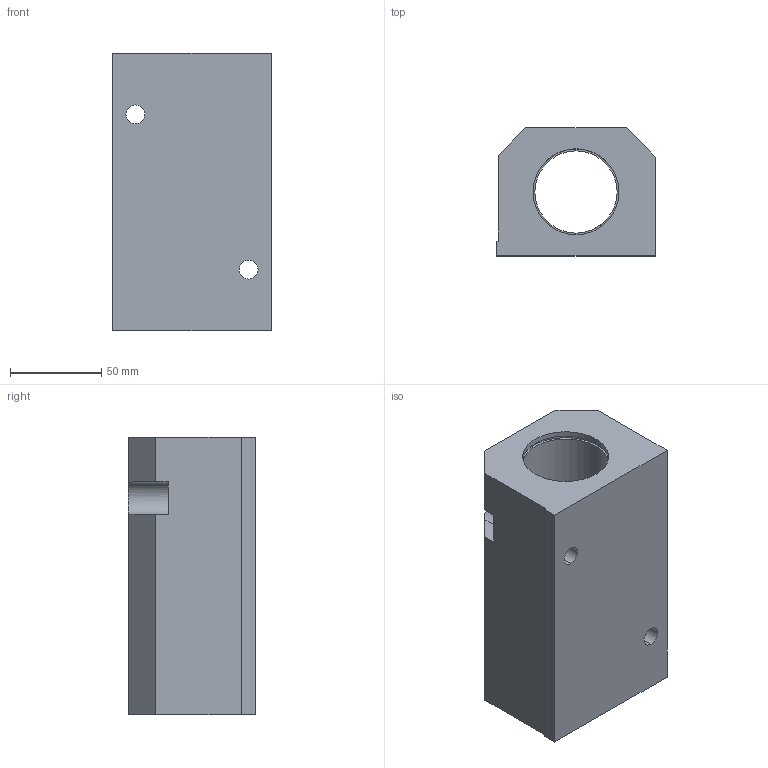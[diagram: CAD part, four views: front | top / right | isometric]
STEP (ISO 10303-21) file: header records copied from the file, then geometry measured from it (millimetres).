
FILE_DESCRIPTION (( 'STEP AP214' ), '1' );
FILE_NAME ('KTG85-30.step', '2020-03-04T13:25:54', ( '' ), ( '' ), 'SwSTEP 2.0', 'SolidWorks 2019', '' );
FILE_SCHEMA (( 'AUTOMOTIVE_DESIGN' ));
Length unit declared in the file: millimetre
Products named in the file (1): KTG85-30
Bounding box: 87 x 70 x 152 mm (x, y, z)
Volume: 596633.5 mm3; surface area: 81179.1 mm2
Topology: 1 solids, 1 shells, 50 faces, 122 edges, 80 vertices
Faces by surface type: cylinder 24, plane 24, cone 2
Entity records: 1658 total; most frequent: CARTESIAN_POINT 331, DIRECTION 264, ORIENTED_EDGE 244, EDGE_CURVE 122, AXIS2_PLACEMENT_3D 97, VERTEX_POINT 80, LINE 70, VECTOR 70
